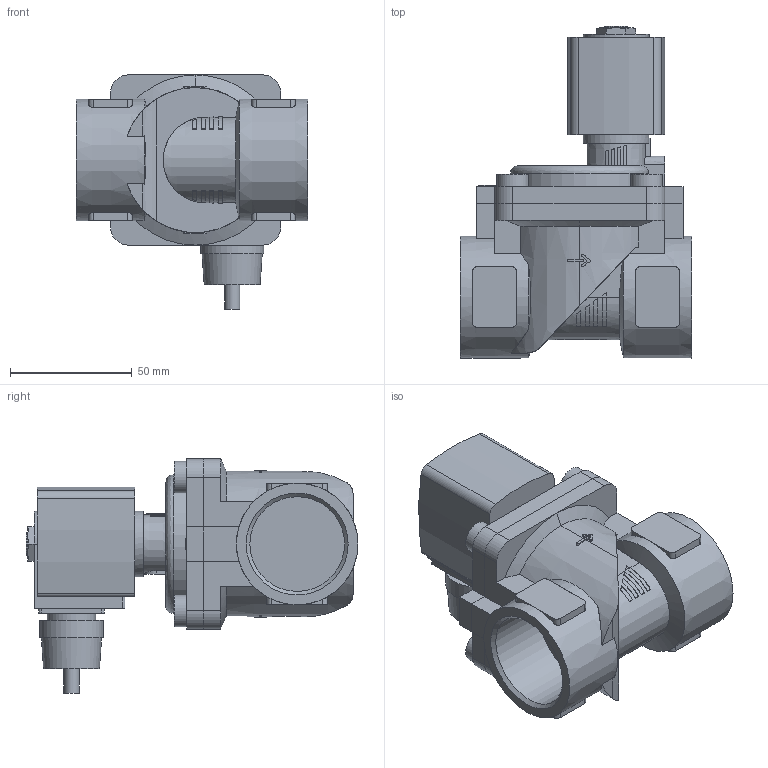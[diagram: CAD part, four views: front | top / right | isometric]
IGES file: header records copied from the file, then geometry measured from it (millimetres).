
Start section: Data from Parasolid IGES Translator 26.0.171, Copyright(c) 2006 Siemens PLM Software. All Rights Reserved.
Global section: file name: 6281-370248-2_2-Way_Solenoid_Valve__Servo-assisted__General_Purpose.igs; native system: By Siemens PLM Incorporated; preprocessor: XPlus GENERIC/IGES 26.0.171; author: Noname; organization: Noname; date: 20240827.005648; units: millimetre
Bounding box: 95 x 136.5 x 96.3 mm (x, y, z)
Surface area: 64770.6 mm2 (no closed solid volume)
Topology: 0 solids, 0 shells, 308 faces, 1594 edges, 1568 vertices
Faces by surface type: extrusion 188, revolution 120
